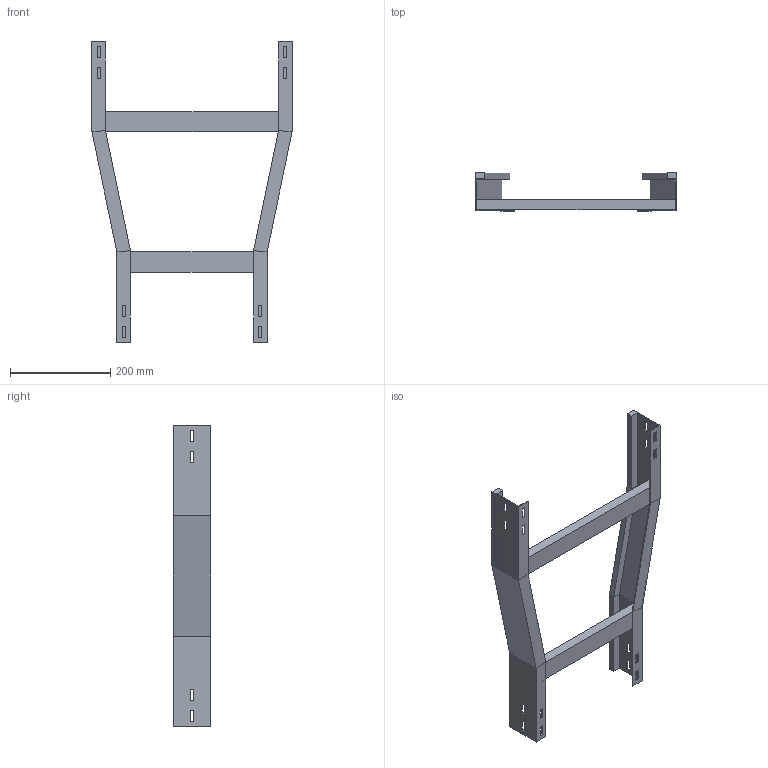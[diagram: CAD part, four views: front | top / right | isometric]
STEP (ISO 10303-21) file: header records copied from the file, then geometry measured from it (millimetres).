
FILE_DESCRIPTION (( 'STEP AP214' ), '1' );
FILE_NAME ('B2X20B3C400XX.step', '2025-09-02T17:14:08', ( '' ), ( '' ), 'SwSTEP 2.0', 'SolidWorks 2023', '' );
FILE_SCHEMA (( 'AUTOMOTIVE_DESIGN' ));
Length unit declared in the file: millimetre
Products named in the file (4): TRAVERSINO_300; B2X20B3C400XX; SPONDA RID. CENTRALE 400-300_H75; TRAVERSINO_400
Assembly tree (3 placements, depth 2):
  B2X20B3C400XX
    SPONDA RID. CENTRALE 400-300_H75
    TRAVERSINO_300
    TRAVERSINO_400
Bounding box: 400 x 75 x 600 mm (x, y, z)
Volume: 1030032 mm3; surface area: 371100.2 mm2
Topology: 4 solids, 4 shells, 128 faces, 328 edges, 208 vertices
Faces by surface type: plane 128
Entity records: 3950 total; most frequent: CARTESIAN_POINT 670, ORIENTED_EDGE 656, DIRECTION 596, VECTOR 328, LINE 328, EDGE_CURVE 328, VERTEX_POINT 208, EDGE_LOOP 160
